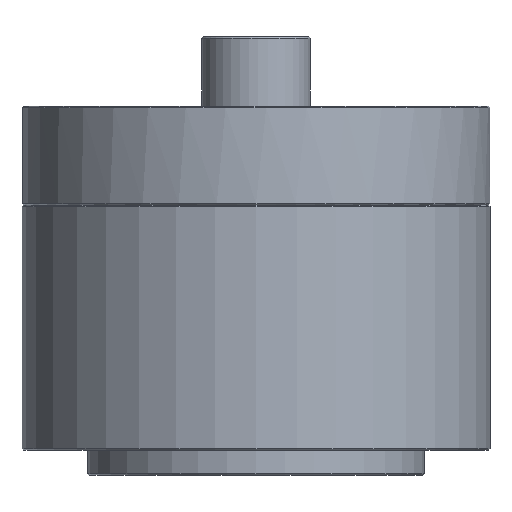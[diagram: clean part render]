
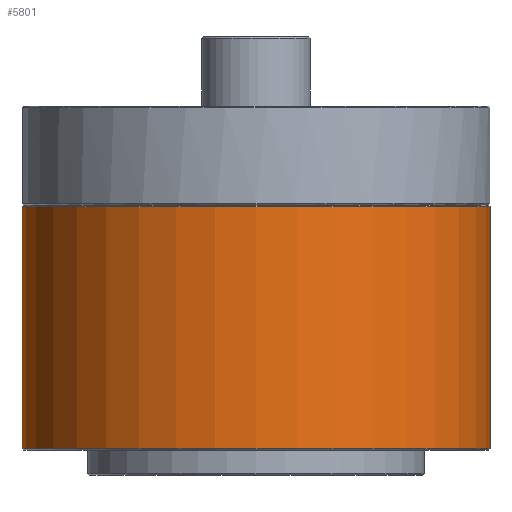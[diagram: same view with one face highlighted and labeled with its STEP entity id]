
A CAD part, left-side view. The second image highlights one B-rep face of the part: STEP entity #5801.
In plain terms, the highlighted cylindrical face has radius 47.25 mm (diameter 94.5 mm), a full revolution.
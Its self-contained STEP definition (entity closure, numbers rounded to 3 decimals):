
#55=CYLINDRICAL_SURFACE('',#6112,47.25);
#203=LINE('',#7956,#535);
#205=LINE('',#7960,#537);
#535=VECTOR('',#6739,1000.);
#537=VECTOR('',#6741,1000.);
#1043=ORIENTED_EDGE('',*,*,#1982,.T.);
#1044=ORIENTED_EDGE('',*,*,#1984,.T.);
#1045=ORIENTED_EDGE('',*,*,#1978,.T.);
#1046=ORIENTED_EDGE('',*,*,#1981,.T.);
#1047=ORIENTED_EDGE('',*,*,#1980,.T.);
#1048=ORIENTED_EDGE('',*,*,#1985,.T.);
#1978=EDGE_CURVE('',#2473,#2472,#203,.T.);
#1980=EDGE_CURVE('',#2471,#2474,#205,.F.);
#1981=EDGE_CURVE('',#2472,#2471,#2789,.F.);
#1982=EDGE_CURVE('',#2475,#2475,#2790,.T.);
#1984=EDGE_CURVE('',#2477,#2477,#2792,.T.);
#1985=EDGE_CURVE('',#2474,#2473,#2793,.F.);
#2471=VERTEX_POINT('',#7954);
#2472=VERTEX_POINT('',#7955);
#2473=VERTEX_POINT('',#7957);
#2474=VERTEX_POINT('',#7959);
#2475=VERTEX_POINT('',#7965);
#2477=VERTEX_POINT('',#7970);
#2789=CIRCLE('',#6108,47.25);
#2790=CIRCLE('',#6110,47.25);
#2792=CIRCLE('',#6113,47.25);
#2793=CIRCLE('',#6114,47.25);
#3019=EDGE_LOOP('',(#1043));
#3020=EDGE_LOOP('',(#1044));
#3021=EDGE_LOOP('',(#1045,#1046,#1047,#1048));
#3409=FACE_BOUND('',#3019,.T.);
#3410=FACE_BOUND('',#3020,.T.);
#3411=FACE_BOUND('',#3021,.T.);
#5801=ADVANCED_FACE('',(#3409,#3410,#3411),#55,.T.);
#6108=AXIS2_PLACEMENT_3D('',#7962,#6744,#6745);
#6110=AXIS2_PLACEMENT_3D('',#7964,#6748,#6749);
#6112=AXIS2_PLACEMENT_3D('',#7968,#6752,#6753);
#6113=AXIS2_PLACEMENT_3D('',#7969,#6754,#6755);
#6114=AXIS2_PLACEMENT_3D('',#7971,#6756,#6757);
#6739=DIRECTION('',(0.,0.,-1.));
#6741=DIRECTION('',(0.,0.,-1.));
#6744=DIRECTION('',(0.,0.,1.));
#6745=DIRECTION('',(1.,0.,0.));
#6748=DIRECTION('',(0.,0.,-1.));
#6749=DIRECTION('',(-1.,0.,0.));
#6752=DIRECTION('',(0.,0.,-1.));
#6753=DIRECTION('',(-1.,0.,0.));
#6754=DIRECTION('',(0.,0.,1.));
#6755=DIRECTION('',(1.,0.,0.));
#6756=DIRECTION('',(0.,0.,-1.));
#6757=DIRECTION('',(-1.,0.,0.));
#7954=CARTESIAN_POINT('',(44.45,-16.024,-8.5));
#7955=CARTESIAN_POINT('',(44.45,16.024,-8.5));
#7956=CARTESIAN_POINT('',(44.45,16.024,28.));
#7957=CARTESIAN_POINT('',(44.45,16.024,23.5));
#7959=CARTESIAN_POINT('',(44.45,-16.024,23.5));
#7960=CARTESIAN_POINT('',(44.45,-16.024,28.));
#7962=CARTESIAN_POINT('',(0.,0.,-8.5));
#7964=CARTESIAN_POINT('',(0.,0.,26.2));
#7965=CARTESIAN_POINT('',(-47.25,0.,26.2));
#7968=CARTESIAN_POINT('',(0.,0.,28.));
#7969=CARTESIAN_POINT('',(0.,0.,-22.7));
#7970=CARTESIAN_POINT('',(47.25,0.,-22.7));
#7971=CARTESIAN_POINT('',(0.,0.,23.5));
